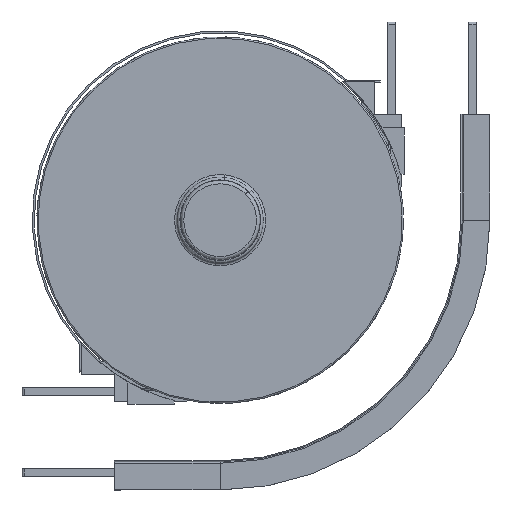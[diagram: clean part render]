
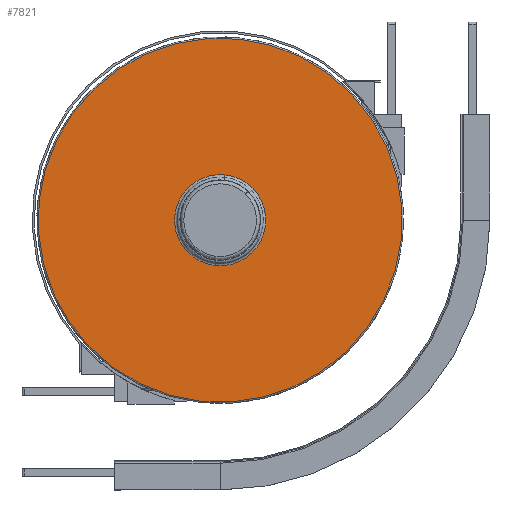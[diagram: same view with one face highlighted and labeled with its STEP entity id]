
A CAD part, front view. The second image highlights one B-rep face of the part: STEP entity #7821.
In plain terms, the highlighted planar face has unit normal (0, -1, 0) as drawn and (0, 0, 1) by its records, which use the part's own axes.
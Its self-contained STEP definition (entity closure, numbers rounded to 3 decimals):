
#403 = EDGE_CURVE ( 'NONE', #13723, #13722, #18822, .T. ) ;
#407 = EDGE_CURVE ( 'NONE', #13716, #13721, #18762, .T. ) ;
#3186 = CARTESIAN_POINT ( 'NONE',  ( 895.8, 0., 21.9 ) ) ;
#3188 = DIRECTION ( 'NONE',  ( 0., 0., 1. ) ) ;
#3189 = DIRECTION ( 'NONE',  ( 0., 1., 0. ) ) ;
#3214 = CARTESIAN_POINT ( 'NONE',  ( 895.8, 0., 21.9 ) ) ;
#3216 = DIRECTION ( 'NONE',  ( 0., 0., -1. ) ) ;
#3218 = DIRECTION ( 'NONE',  ( -1., 0., 0. ) ) ;
#4248 = CARTESIAN_POINT ( 'NONE',  ( 930.3, 0., 21.9 ) ) ;
#4253 = CARTESIAN_POINT ( 'NONE',  ( 861.3, 0., 21.9 ) ) ;
#4254 = CARTESIAN_POINT ( 'NONE',  ( 895.8, 137.8, 21.9 ) ) ;
#4255 = CARTESIAN_POINT ( 'NONE',  ( 895.8, -137.8, 21.9 ) ) ;
#4670 = AXIS2_PLACEMENT_3D ( 'NONE', #8912, #8913, #8914 ) ;
#5433 = CIRCLE ( 'NONE', #5544, 137.8 ) ;
#5515 = CIRCLE ( 'NONE', #4670, 34.5 ) ;
#5544 = AXIS2_PLACEMENT_3D ( 'NONE', #8915, #8916, #8917 ) ;
#5615 = AXIS2_PLACEMENT_3D ( 'NONE', #22984, #22982, #22989 ) ;
#7821 = ADVANCED_FACE ( 'NONE', ( #22980, #22986 ), #22987, .T. ) ;
#8912 = CARTESIAN_POINT ( 'NONE',  ( 895.8, 0., 21.9 ) ) ;
#8913 = DIRECTION ( 'NONE',  ( 0., 0., -1. ) ) ;
#8914 = DIRECTION ( 'NONE',  ( -1., 0., 0. ) ) ;
#8915 = CARTESIAN_POINT ( 'NONE',  ( 895.8, 0., 21.9 ) ) ;
#8916 = DIRECTION ( 'NONE',  ( 0., 0., 1. ) ) ;
#8917 = DIRECTION ( 'NONE',  ( 0., 1., 0. ) ) ;
#12678 = EDGE_CURVE ( 'NONE', #13721, #13716, #5515, .T. ) ;
#12679 = EDGE_CURVE ( 'NONE', #13722, #13723, #5433, .T. ) ;
#13716 = VERTEX_POINT ( 'NONE', #4248 ) ;
#13721 = VERTEX_POINT ( 'NONE', #4253 ) ;
#13722 = VERTEX_POINT ( 'NONE', #4254 ) ;
#13723 = VERTEX_POINT ( 'NONE', #4255 ) ;
#15696 = EDGE_LOOP ( 'NONE', ( #20234, #20235 ) ) ;
#15697 = EDGE_LOOP ( 'NONE', ( #20232, #20233 ) ) ;
#18762 = CIRCLE ( 'NONE', #18793, 34.5 ) ;
#18768 = AXIS2_PLACEMENT_3D ( 'NONE', #3186, #3188, #3189 ) ;
#18793 = AXIS2_PLACEMENT_3D ( 'NONE', #3214, #3216, #3218 ) ;
#18822 = CIRCLE ( 'NONE', #18768, 137.8 ) ;
#20232 = ORIENTED_EDGE ( 'NONE', *, *, #12679, .T. ) ;
#20233 = ORIENTED_EDGE ( 'NONE', *, *, #403, .T. ) ;
#20234 = ORIENTED_EDGE ( 'NONE', *, *, #12678, .T. ) ;
#20235 = ORIENTED_EDGE ( 'NONE', *, *, #407, .T. ) ;
#22980 = FACE_OUTER_BOUND ( 'NONE', #15697, .T. ) ;
#22982 = DIRECTION ( 'NONE',  ( 0., 0., 1. ) ) ;
#22984 = CARTESIAN_POINT ( 'NONE',  ( 981.95, 0., 21.9 ) ) ;
#22986 = FACE_BOUND ( 'NONE', #15696, .T. ) ;
#22987 = PLANE ( 'NONE',  #5615 ) ;
#22989 = DIRECTION ( 'NONE',  ( 1., 0., 0. ) ) ;
